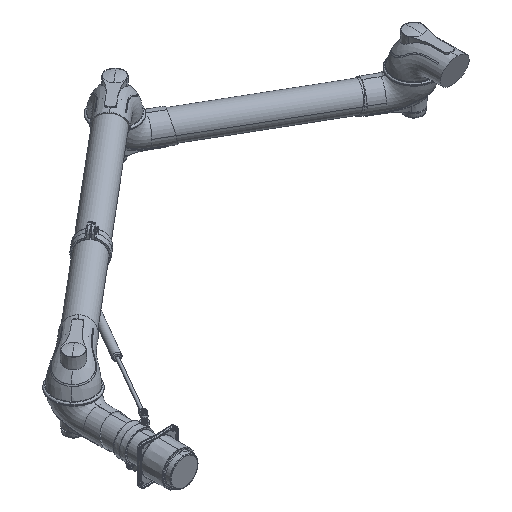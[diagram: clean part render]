
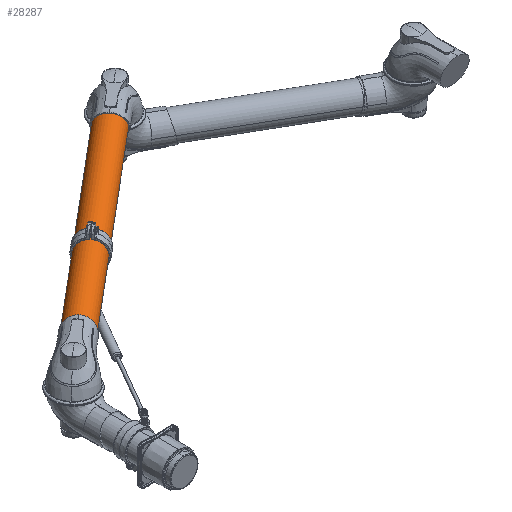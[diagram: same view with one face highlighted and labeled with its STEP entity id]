
A CAD part, isometric view. The second image highlights one B-rep face of the part: STEP entity #28287.
In plain terms, the highlighted cylindrical face has radius 39 mm (diameter 78 mm), a partial arc.
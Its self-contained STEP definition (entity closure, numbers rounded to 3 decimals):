
#28200=CARTESIAN_POINT('',(0.,0.,0.));
#28201=DIRECTION('',(1.,0.,0.));
#28202=DIRECTION('',(0.,1.,0.));
#28203=AXIS2_PLACEMENT_3D('',#28200,#28201,#28202);
#28208=DIRECTION('',(-1.,0.,0.));
#28209=VECTOR('',#28208,860.);
#28210=CARTESIAN_POINT('',(0.,39.,0.));
#28211=LINE('',#28210,#28209);
#28215=DIRECTION('',(-1.,0.,0.));
#28216=VECTOR('',#28215,860.);
#28217=CARTESIAN_POINT('',(0.,-39.,0.));
#28218=LINE('',#28217,#28216);
#28238=CARTESIAN_POINT('',(-860.,0.,0.));
#28239=DIRECTION('',(1.,0.,0.));
#28240=DIRECTION('',(0.,1.,0.));
#28241=AXIS2_PLACEMENT_3D('',#28238,#28239,#28240);
#28246=CARTESIAN_POINT('',(0.,39.,0.));
#28247=CARTESIAN_POINT('',(-860.,39.,0.));
#28248=VERTEX_POINT('',#28246);
#28249=VERTEX_POINT('',#28247);
#28250=CARTESIAN_POINT('',(0.,-39.,0.));
#28251=CARTESIAN_POINT('',(-860.,-39.,0.));
#28252=VERTEX_POINT('',#28250);
#28253=VERTEX_POINT('',#28251);
#28273=CARTESIAN_POINT('',(-903.,0.,0.));
#28274=DIRECTION('',(1.,0.,0.));
#28275=DIRECTION('',(0.,-1.,0.));
#28276=AXIS2_PLACEMENT_3D('',#28273,#28274,#28275);
#28277=CYLINDRICAL_SURFACE('',#28276,39.);
#28279=ORIENTED_EDGE('',*,*,#28278,.F.);
#28280=ORIENTED_EDGE('',*,*,#28259,.T.);
#28282=ORIENTED_EDGE('',*,*,#28281,.T.);
#28284=ORIENTED_EDGE('',*,*,#28283,.F.);
#28285=EDGE_LOOP('',(#28279,#28280,#28282,#28284));
#28286=FACE_OUTER_BOUND('',#28285,.F.);
#28204=CIRCLE('',#28203,39.);
#28242=CIRCLE('',#28241,39.);
#28259=EDGE_CURVE('',#28248,#28252,#28204,.T.);
#28278=EDGE_CURVE('',#28248,#28249,#28211,.T.);
#28281=EDGE_CURVE('',#28252,#28253,#28218,.T.);
#28283=EDGE_CURVE('',#28249,#28253,#28242,.T.);
#28287=ADVANCED_FACE('',(#28286),#28277,.T.);
